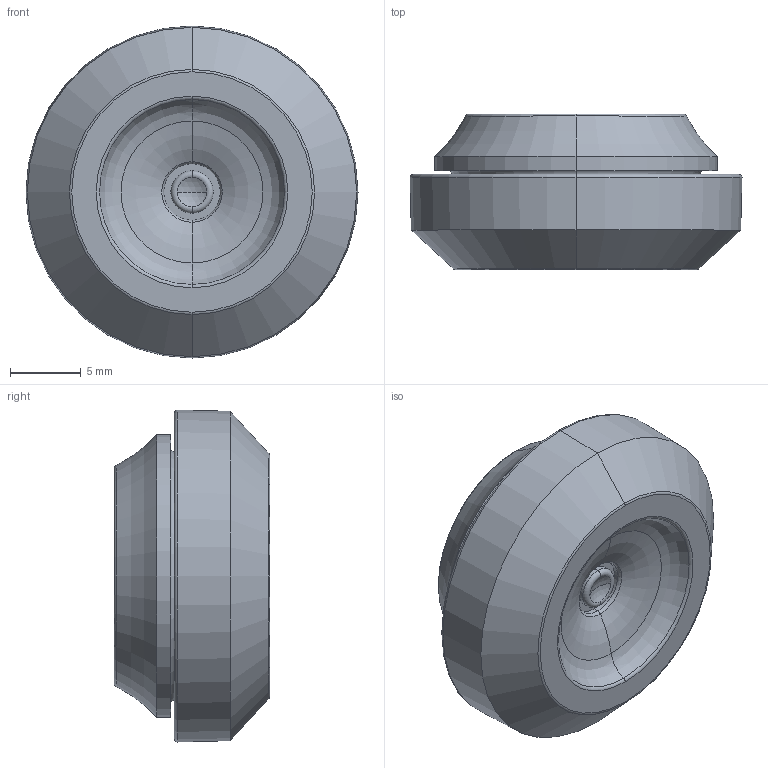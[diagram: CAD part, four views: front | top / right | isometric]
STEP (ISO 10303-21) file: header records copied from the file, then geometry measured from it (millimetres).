
FILE_DESCRIPTION (( 'STEP AP203' ), '1' );
FILE_NAME ('1475711-tst.step', '2007-10-24T15:35:58', ( 'Gustaf Hederström' ), ( 'Cevican AB' ), 'SwSTEP 2.0', 'SolidWorks 2002308', '' );
FILE_SCHEMA (( 'CONFIG_CONTROL_DESIGN' ));
Length unit declared in the file: millimetre
Products named in the file (1): 1475711-tst
Bounding box: 23.49 x 11 x 23.49 mm (x, y, z)
Volume: 2189.5 mm3; surface area: 2229.4 mm2
Topology: 1 solids, 1 shells, 63 faces, 126 edges, 69 vertices
Faces by surface type: torus 32, cone 14, cylinder 10, plane 5, sphere 2
Entity records: 1719 total; most frequent: DIRECTION 356, CARTESIAN_POINT 259, ORIENTED_EDGE 252, AXIS2_PLACEMENT_3D 166, EDGE_CURVE 126, CIRCLE 102, VERTEX_POINT 69, EDGE_LOOP 67
